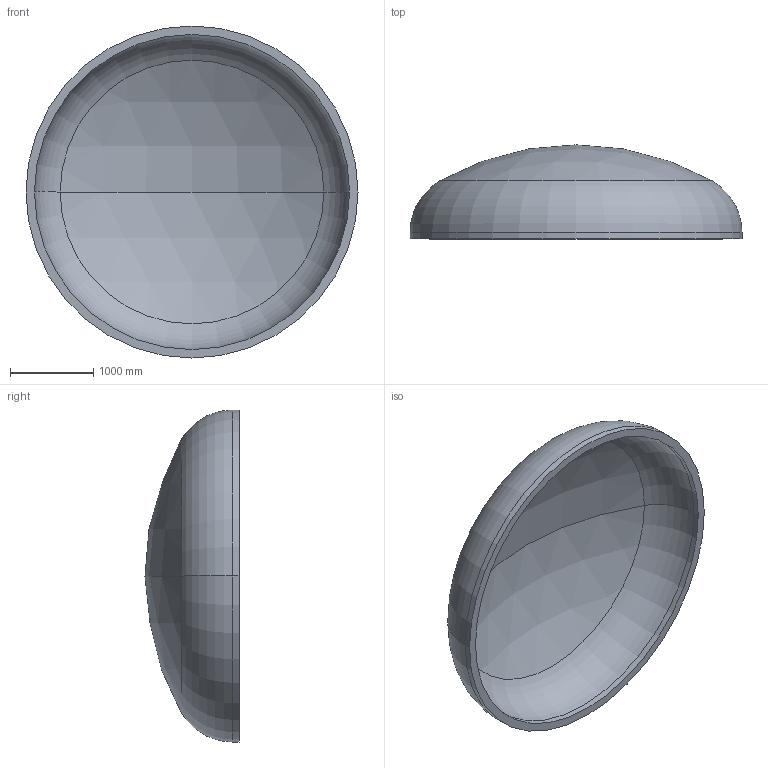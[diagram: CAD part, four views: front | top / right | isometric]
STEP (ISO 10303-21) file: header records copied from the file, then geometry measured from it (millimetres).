
FILE_DESCRIPTION (( 'STEP AP203' ), '1' );
FILE_NAME ('DIN 28013 Korbbogenform_-_Boden DIN 28013 - 4000 x 75 - I - s=102.step', '2016-07-01T22:49:18', ( '' ), ( '' ), 'SwSTEP 2.0', 'SolidWorks 2013', '' );
FILE_SCHEMA (( 'CONFIG_CONTROL_DESIGN' ));
Length unit declared in the file: millimetre
Products named in the file (1): DIN 28013 Korbbogenform_-_Boden DIN 28013 - 4000 x 75 - I - s=102
Bounding box: 4000 x 1132.87 x 4000 mm (x, y, z)
Volume: 1809986511 mm3; surface area: 36760793.9 mm2
Topology: 1 solids, 1 shells, 13 faces, 24 edges, 14 vertices
Faces by surface type: torus 4, cylinder 4, sphere 4, plane 1
Entity records: 407 total; most frequent: DIRECTION 72, CARTESIAN_POINT 52, ORIENTED_EDGE 48, AXIS2_PLACEMENT_3D 34, EDGE_CURVE 24, CIRCLE 20, EDGE_LOOP 14, VERTEX_POINT 14
